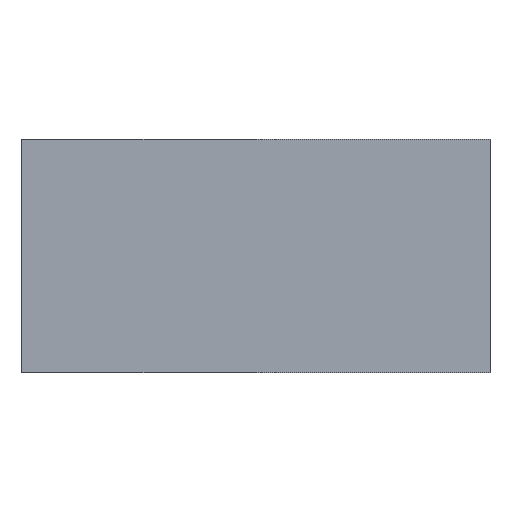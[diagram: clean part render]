
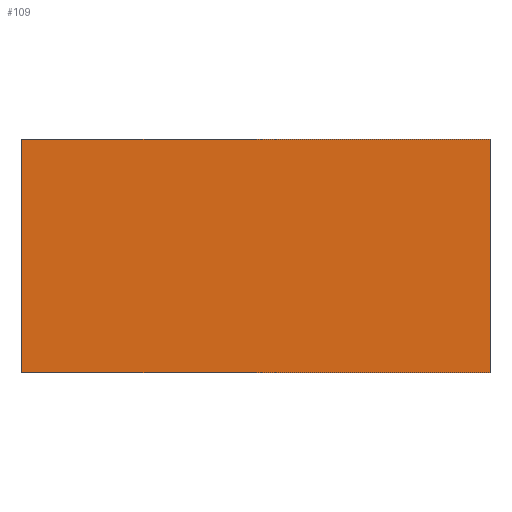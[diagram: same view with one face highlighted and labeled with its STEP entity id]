
A CAD part, front view. The second image highlights one B-rep face of the part: STEP entity #109.
In plain terms, the highlighted planar face has unit normal (0, -1, 0).
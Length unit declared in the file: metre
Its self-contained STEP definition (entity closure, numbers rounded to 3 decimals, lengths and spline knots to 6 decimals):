
#28=ORIENTED_EDGE('',*,*,#39,.T.);
#29=ORIENTED_EDGE('',*,*,#46,.F.);
#30=ORIENTED_EDGE('',*,*,#41,.F.);
#31=ORIENTED_EDGE('',*,*,#47,.T.);
#39=EDGE_CURVE('',#49,#51,#59,.T.);
#41=EDGE_CURVE('',#53,#54,#61,.T.);
#46=EDGE_CURVE('',#54,#51,#66,.T.);
#47=EDGE_CURVE('',#53,#49,#67,.T.);
#49=VERTEX_POINT('',#196);
#51=VERTEX_POINT('',#200);
#53=VERTEX_POINT('',#205);
#54=VERTEX_POINT('',#207);
#59=LINE('',#201,#71);
#61=LINE('',#206,#73);
#66=LINE('',#215,#78);
#67=LINE('',#217,#79);
#71=VECTOR('',#173,1.);
#73=VECTOR('',#177,1.);
#78=VECTOR('',#186,1.);
#79=VECTOR('',#189,1.);
#84=EDGE_LOOP('',(#28,#29,#30,#31));
#90=FACE_BOUND('',#84,.T.);
#96=PLANE('',#164);
#109=ADVANCED_FACE('',(#90),#96,.F.);
#164=AXIS2_PLACEMENT_3D('',#216,#187,#188);
#173=DIRECTION('',(0.,0.,1.));
#177=DIRECTION('',(0.,0.,1.));
#186=DIRECTION('',(1.,0.,0.));
#187=DIRECTION('',(0.,1.,0.));
#188=DIRECTION('',(0.,0.,-1.));
#189=DIRECTION('',(1.,0.,0.));
#196=CARTESIAN_POINT('',(-0.086533,-0.017418,0.0095));
#200=CARTESIAN_POINT('',(-0.086533,-0.017418,0.00965));
#201=CARTESIAN_POINT('',(-0.086533,-0.017418,0.0095));
#205=CARTESIAN_POINT('',(-0.086833,-0.017418,0.0095));
#206=CARTESIAN_POINT('',(-0.086833,-0.017418,0.0095));
#207=CARTESIAN_POINT('',(-0.086833,-0.017418,0.00965));
#215=CARTESIAN_POINT('',(-0.086833,-0.017418,0.00965));
#216=CARTESIAN_POINT('',(-0.086833,-0.017418,0.0095));
#217=CARTESIAN_POINT('',(-0.086833,-0.017418,0.0095));
